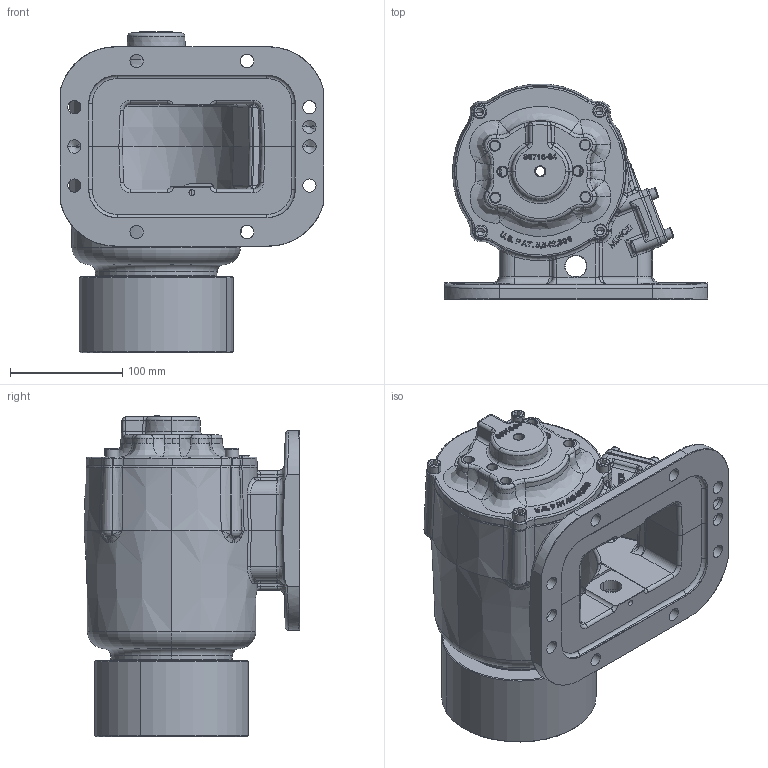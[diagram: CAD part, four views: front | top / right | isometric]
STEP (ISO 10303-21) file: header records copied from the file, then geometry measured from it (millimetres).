
FILE_DESCRIPTION (( 'STEP AP203' ), '1' );
FILE_NAME ('CS8S-XXXXX-E1IX.STEP', '2023-04-28T18:24:20', ( '' ), ( '' ), 'SwSTEP 2.0', 'SolidWorks 2021', '' );
FILE_SCHEMA (( 'CONFIG_CONTROL_DESIGN' ));
Length unit declared in the file: inch
Products named in the file (10): 14T38354; 16t34000; 14TA4824_Config1; 11T37795; 15T36717; 10T21017; 19T41118; 01T42182_01T42182; 19T35237; CS8S-XXXXX-E1IX
Assembly tree (15 placements, depth 3):
  CS8S-XXXXX-E1IX
    16t34000
    15T36717
    01T42182_01T42182
    10T21017
    14TA4824_Config1
      14T38354
      11T37795
    19T41118  x4
    19T35237  x4
Bounding box: 234.96 x 192.24 x 286.52 mm (x, y, z)
Volume: 2080772.6 mm3; surface area: 489078.1 mm2
Topology: 14 solids, 15 shells, 2098 faces, 5396 edges, 3334 vertices
Faces by surface type: bspline 727, plane 540, cylinder 416, cone 221, torus 170, sphere 24
Entity records: 95616 total; most frequent: CARTESIAN_POINT 51714, ORIENTED_EDGE 9960, DIRECTION 7210, EDGE_CURVE 4980, VERTEX_POINT 3121, AXIS2_PLACEMENT_3D 2646, EDGE_LOOP 2179, ADVANCED_FACE 1966
